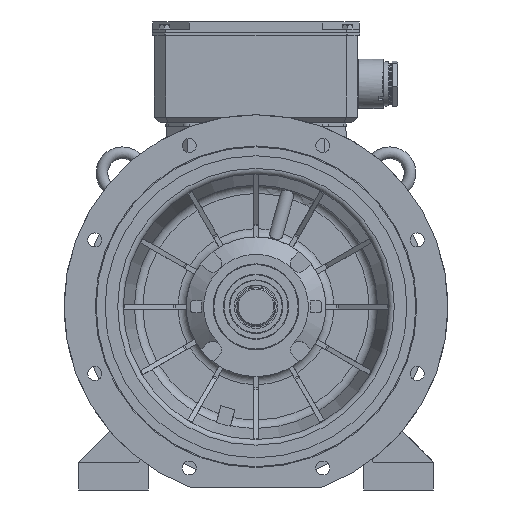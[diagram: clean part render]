
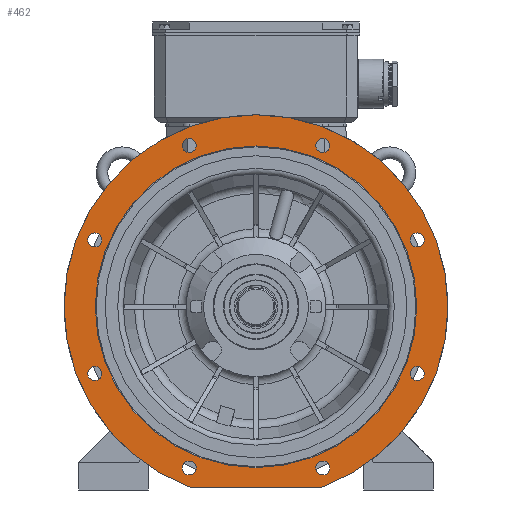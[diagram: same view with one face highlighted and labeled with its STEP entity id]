
A CAD part, front view. The second image highlights one B-rep face of the part: STEP entity #462.
In plain terms, the highlighted planar face has unit normal (0, -1, 0).
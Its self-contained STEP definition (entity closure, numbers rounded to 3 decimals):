
#462 = ADVANCED_FACE( '', ( #2106, #2107, #2108, #2109, #2110, #2111, #2112, #2113, #2114, #2115 ), #2116, .F. );
#2106 = FACE_BOUND( '', #4929, .T. );
#2107 = FACE_BOUND( '', #4930, .T. );
#2108 = FACE_BOUND( '', #4931, .T. );
#2109 = FACE_BOUND( '', #4932, .T. );
#2110 = FACE_BOUND( '', #4933, .T. );
#2111 = FACE_BOUND( '', #4934, .T. );
#2112 = FACE_BOUND( '', #4935, .T. );
#2113 = FACE_BOUND( '', #4936, .T. );
#2114 = FACE_BOUND( '', #4937, .T. );
#2115 = FACE_OUTER_BOUND( '', #4938, .T. );
#2116 = PLANE( '', #4939 );
#4929 = EDGE_LOOP( '', ( #12823 ) );
#4930 = EDGE_LOOP( '', ( #12824 ) );
#4931 = EDGE_LOOP( '', ( #12825 ) );
#4932 = EDGE_LOOP( '', ( #12826 ) );
#4933 = EDGE_LOOP( '', ( #12827 ) );
#4934 = EDGE_LOOP( '', ( #12828 ) );
#4935 = EDGE_LOOP( '', ( #12829 ) );
#4936 = EDGE_LOOP( '', ( #12830 ) );
#4937 = EDGE_LOOP( '', ( #12831 ) );
#4938 = EDGE_LOOP( '', ( #12832, #12833, #12834, #12835 ) );
#4939 = AXIS2_PLACEMENT_3D( '', #12836, #12837, #12838 );
#12823 = ORIENTED_EDGE( '', *, *, #21936, .F. );
#12824 = ORIENTED_EDGE( '', *, *, #21938, .F. );
#12825 = ORIENTED_EDGE( '', *, *, #21940, .F. );
#12826 = ORIENTED_EDGE( '', *, *, #21942, .F. );
#12827 = ORIENTED_EDGE( '', *, *, #21944, .F. );
#12828 = ORIENTED_EDGE( '', *, *, #21946, .F. );
#12829 = ORIENTED_EDGE( '', *, *, #21948, .F. );
#12830 = ORIENTED_EDGE( '', *, *, #21950, .F. );
#12831 = ORIENTED_EDGE( '', *, *, #21958, .F. );
#12832 = ORIENTED_EDGE( '', *, *, #21961, .T. );
#12833 = ORIENTED_EDGE( '', *, *, #21962, .F. );
#12834 = ORIENTED_EDGE( '', *, *, #21963, .T. );
#12835 = ORIENTED_EDGE( '', *, *, #21964, .F. );
#12836 = CARTESIAN_POINT( '', ( 0., -103.997, 276.4 ) );
#12837 = DIRECTION( '', ( 0., 1., 0. ) );
#12838 = DIRECTION( '', ( 0., 0., 1. ) );
#21936 = EDGE_CURVE( '', #25567, #25567, #25568, .T. );
#21938 = EDGE_CURVE( '', #25571, #25571, #25572, .T. );
#21940 = EDGE_CURVE( '', #25575, #25575, #25576, .T. );
#21942 = EDGE_CURVE( '', #25579, #25579, #25580, .T. );
#21944 = EDGE_CURVE( '', #25583, #25583, #25584, .T. );
#21946 = EDGE_CURVE( '', #25587, #25587, #25588, .T. );
#21948 = EDGE_CURVE( '', #25591, #25591, #25592, .T. );
#21950 = EDGE_CURVE( '', #25595, #25595, #25596, .T. );
#21958 = EDGE_CURVE( '', #25610, #25610, #25611, .T. );
#21961 = EDGE_CURVE( '', #25616, #25617, #25618, .F. );
#21962 = EDGE_CURVE( '', #25619, #25617, #25620, .T. );
#21963 = EDGE_CURVE( '', #25619, #25621, #25622, .F. );
#21964 = EDGE_CURVE( '', #25616, #25621, #25623, .T. );
#25567 = VERTEX_POINT( '', #32077 );
#25568 = CIRCLE( '', #32078, 12. );
#25571 = VERTEX_POINT( '', #32081 );
#25572 = CIRCLE( '', #32082, 12. );
#25575 = VERTEX_POINT( '', #32085 );
#25576 = CIRCLE( '', #32086, 12. );
#25579 = VERTEX_POINT( '', #32089 );
#25580 = CIRCLE( '', #32090, 12. );
#25583 = VERTEX_POINT( '', #32093 );
#25584 = CIRCLE( '', #32094, 12. );
#25587 = VERTEX_POINT( '', #32097 );
#25588 = CIRCLE( '', #32098, 12. );
#25591 = VERTEX_POINT( '', #32101 );
#25592 = CIRCLE( '', #32102, 12. );
#25595 = VERTEX_POINT( '', #32105 );
#25596 = CIRCLE( '', #32106, 12. );
#25610 = VERTEX_POINT( '', #32123 );
#25611 = CIRCLE( '', #32124, 276.4 );
#25616 = VERTEX_POINT( '', #32129 );
#25617 = VERTEX_POINT( '', #32130 );
#25618 = CIRCLE( '', #32131, 3. );
#25619 = VERTEX_POINT( '', #32132 );
#25620 = LINE( '', #32133, #32134 );
#25621 = VERTEX_POINT( '', #32135 );
#25622 = CIRCLE( '', #32136, 3. );
#25623 = CIRCLE( '', #32137, 330. );
#32077 = CARTESIAN_POINT( '', ( -265.164, -103.997, 114.805 ) );
#32078 = AXIS2_PLACEMENT_3D( '', #45562, #45563, #45564 );
#32081 = CARTESIAN_POINT( '', ( -265.164, -103.997, -114.805 ) );
#32082 = AXIS2_PLACEMENT_3D( '', #45568, #45569, #45570 );
#32085 = CARTESIAN_POINT( '', ( -102.805, -103.997, -277.164 ) );
#32086 = AXIS2_PLACEMENT_3D( '', #45574, #45575, #45576 );
#32089 = CARTESIAN_POINT( '', ( 126.805, -103.997, -277.164 ) );
#32090 = AXIS2_PLACEMENT_3D( '', #45580, #45581, #45582 );
#32093 = CARTESIAN_POINT( '', ( 289.164, -103.997, -114.805 ) );
#32094 = AXIS2_PLACEMENT_3D( '', #45586, #45587, #45588 );
#32097 = CARTESIAN_POINT( '', ( 289.164, -103.997, 114.805 ) );
#32098 = AXIS2_PLACEMENT_3D( '', #45592, #45593, #45594 );
#32101 = CARTESIAN_POINT( '', ( 126.805, -103.997, 277.164 ) );
#32102 = AXIS2_PLACEMENT_3D( '', #45598, #45599, #45600 );
#32105 = CARTESIAN_POINT( '', ( -102.805, -103.997, 277.164 ) );
#32106 = AXIS2_PLACEMENT_3D( '', #45604, #45605, #45606 );
#32123 = CARTESIAN_POINT( '', ( 0., -103.997, -276.4 ) );
#32124 = AXIS2_PLACEMENT_3D( '', #45622, #45623, #45624 );
#32129 = CARTESIAN_POINT( '', ( -113.639, -103.997, -309.817 ) );
#32130 = CARTESIAN_POINT( '', ( -112.606, -103.997, -310. ) );
#32131 = AXIS2_PLACEMENT_3D( '', #45631, #45632, #45633 );
#32132 = CARTESIAN_POINT( '', ( 112.606, -103.997, -310. ) );
#32133 = CARTESIAN_POINT( '', ( -113.137, -103.997, -310. ) );
#32134 = VECTOR( '', #45634, 1000. );
#32135 = CARTESIAN_POINT( '', ( 113.639, -103.997, -309.817 ) );
#32136 = AXIS2_PLACEMENT_3D( '', #45635, #45636, #45637 );
#32137 = AXIS2_PLACEMENT_3D( '', #45638, #45639, #45640 );
#45562 = CARTESIAN_POINT( '', ( -277.164, -103.997, 114.805 ) );
#45563 = DIRECTION( '', ( 0., -1., 0. ) );
#45564 = DIRECTION( '', ( 1., 0., 0. ) );
#45568 = CARTESIAN_POINT( '', ( -277.164, -103.997, -114.805 ) );
#45569 = DIRECTION( '', ( 0., -1., 0. ) );
#45570 = DIRECTION( '', ( 1., 0., 0. ) );
#45574 = CARTESIAN_POINT( '', ( -114.805, -103.997, -277.164 ) );
#45575 = DIRECTION( '', ( 0., -1., 0. ) );
#45576 = DIRECTION( '', ( 1., 0., 0. ) );
#45580 = CARTESIAN_POINT( '', ( 114.805, -103.997, -277.164 ) );
#45581 = DIRECTION( '', ( 0., -1., 0. ) );
#45582 = DIRECTION( '', ( 1., 0., 0. ) );
#45586 = CARTESIAN_POINT( '', ( 277.164, -103.997, -114.805 ) );
#45587 = DIRECTION( '', ( 0., -1., 0. ) );
#45588 = DIRECTION( '', ( 1., 0., 0. ) );
#45592 = CARTESIAN_POINT( '', ( 277.164, -103.997, 114.805 ) );
#45593 = DIRECTION( '', ( 0., -1., 0. ) );
#45594 = DIRECTION( '', ( 1., 0., 0. ) );
#45598 = CARTESIAN_POINT( '', ( 114.805, -103.997, 277.164 ) );
#45599 = DIRECTION( '', ( 0., -1., 0. ) );
#45600 = DIRECTION( '', ( 1., 0., 0. ) );
#45604 = CARTESIAN_POINT( '', ( -114.805, -103.997, 277.164 ) );
#45605 = DIRECTION( '', ( 0., -1., 0. ) );
#45606 = DIRECTION( '', ( 1., 0., 0. ) );
#45622 = CARTESIAN_POINT( '', ( 0., -103.997, 0. ) );
#45623 = DIRECTION( '', ( 0., -1., 0. ) );
#45624 = DIRECTION( '', ( 0., 0., -1. ) );
#45631 = CARTESIAN_POINT( '', ( -112.606, -103.997, -307. ) );
#45632 = DIRECTION( '', ( 0., 1., 0. ) );
#45633 = DIRECTION( '', ( 0., 0., 1. ) );
#45634 = DIRECTION( '', ( -1., 0., 0. ) );
#45635 = CARTESIAN_POINT( '', ( 112.606, -103.997, -307. ) );
#45636 = DIRECTION( '', ( 0., 1., 0. ) );
#45637 = DIRECTION( '', ( 0., 0., 1. ) );
#45638 = CARTESIAN_POINT( '', ( 0., -103.997, 0. ) );
#45639 = DIRECTION( '', ( 0., 1., 0. ) );
#45640 = DIRECTION( '', ( 0., 0., 1. ) );
